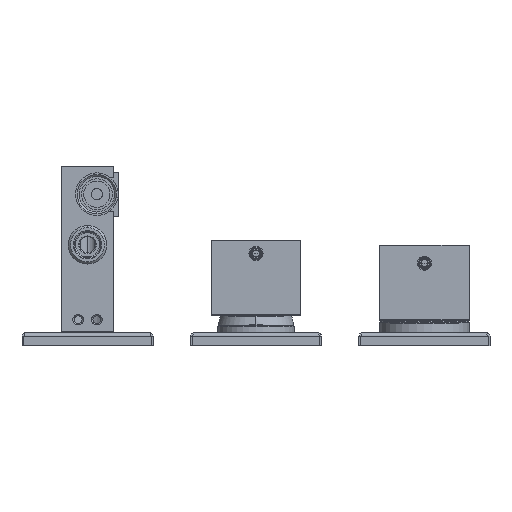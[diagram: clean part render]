
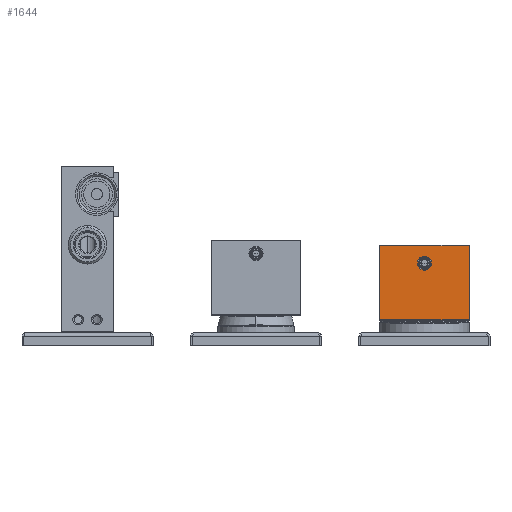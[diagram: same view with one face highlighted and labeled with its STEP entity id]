
A CAD part, front view. The second image highlights one B-rep face of the part: STEP entity #1644.
In plain terms, the highlighted planar face has unit normal (0, -1, 0).
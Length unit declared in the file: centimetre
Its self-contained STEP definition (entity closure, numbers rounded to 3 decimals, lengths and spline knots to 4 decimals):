
#1644=ADVANCED_FACE('',(#4323,#2811),#40237,.T.);
#2811=FACE_BOUND('',#6968,.T.);
#4323=FACE_OUTER_BOUND('',#6967,.T.);
#6967=EDGE_LOOP('',(#15448,#15449,#15450,#15451));
#6968=EDGE_LOOP('',(#15452,#15453));
#15448=ORIENTED_EDGE('',*,*,#24333,.F.);
#15449=ORIENTED_EDGE('',*,*,#24366,.F.);
#15450=ORIENTED_EDGE('',*,*,#24368,.T.);
#15451=ORIENTED_EDGE('',*,*,#24367,.F.);
#15452=ORIENTED_EDGE('',*,*,#25908,.T.);
#15453=ORIENTED_EDGE('',*,*,#25909,.T.);
#24333=EDGE_CURVE('',#36827,#36824,#32149,.T.);
#24366=EDGE_CURVE('',#36938,#36827,#32175,.T.);
#24367=EDGE_CURVE('',#36824,#36822,#32176,.T.);
#24368=EDGE_CURVE('',#36938,#36822,#32177,.T.);
#25908=EDGE_CURVE('',#36940,#36939,#27912,.T.);
#25909=EDGE_CURVE('',#36939,#36940,#27913,.T.);
#27912=TRIMMED_CURVE($,#29014,(#90414),(#90415),.T.,.CARTESIAN.);
#27913=TRIMMED_CURVE($,#29015,(#90417),(#90418),.T.,.CARTESIAN.);
#29014=CIRCLE('',#44040,0.375);
#29015=CIRCLE('',#44041,0.375);
#32149=B_SPLINE_CURVE_WITH_KNOTS('',1,(#85158,#85159),.UNSPECIFIED.,.F.,
 .F.,(2,2),(-47.6,0.),.UNSPECIFIED.);
#32175=B_SPLINE_CURVE_WITH_KNOTS('',1,(#85231,#85232),.UNSPECIFIED.,.F.,
 .F.,(2,2),(-39.6,0.),.UNSPECIFIED.);
#32176=B_SPLINE_CURVE_WITH_KNOTS('',1,(#85233,#85234),.UNSPECIFIED.,.F.,
 .F.,(2,2),(0.,39.6),.UNSPECIFIED.);
#32177=B_SPLINE_CURVE_WITH_KNOTS('',1,(#85235,#85236),.UNSPECIFIED.,.F.,
 .F.,(2,2),(-47.6,0.),.UNSPECIFIED.);
#36822=VERTEX_POINT('',#83547);
#36824=VERTEX_POINT('',#83549);
#36827=VERTEX_POINT('',#83552);
#36938=VERTEX_POINT('',#83663);
#36939=VERTEX_POINT('',#83664);
#36940=VERTEX_POINT('',#83665);
#40237=PLANE('',#43045);
#43045=AXIS2_PLACEMENT_3D('',#76133,#47021,$);
#44040=AXIS2_PLACEMENT_3D($,#90413,#48182,#48183);
#44041=AXIS2_PLACEMENT_3D($,#90416,#48184,#48185);
#47021=DIRECTION('',(0.,-1.,0.));
#48182=DIRECTION('',(0.,1.,0.));
#48183=DIRECTION('',(0.,0.,1.));
#48184=DIRECTION('',(0.,1.,0.));
#48185=DIRECTION('',(0.,0.,-1.));
#76133=CARTESIAN_POINT('',(5.3845,-2.4,9.9845));
#83547=CARTESIAN_POINT('',(10.63,-2.4,10.39));
#83549=CARTESIAN_POINT('',(10.63,-2.4,14.35));
#83552=CARTESIAN_POINT('',(5.87,-2.4,14.35));
#83663=CARTESIAN_POINT('',(5.87,-2.4,10.39));
#83664=CARTESIAN_POINT('',(8.25,-2.4,13.045));
#83665=CARTESIAN_POINT('',(8.25,-2.4,13.795));
#85158=CARTESIAN_POINT('',(5.87,-2.4,14.35));
#85159=CARTESIAN_POINT('',(10.63,-2.4,14.35));
#85231=CARTESIAN_POINT('',(5.87,-2.4,10.39));
#85232=CARTESIAN_POINT('',(5.87,-2.4,14.35));
#85233=CARTESIAN_POINT('',(10.63,-2.4,14.35));
#85234=CARTESIAN_POINT('',(10.63,-2.4,10.39));
#85235=CARTESIAN_POINT('',(5.87,-2.4,10.39));
#85236=CARTESIAN_POINT('',(10.63,-2.4,10.39));
#90413=CARTESIAN_POINT('',(8.25,-2.4,13.42));
#90414=CARTESIAN_POINT('',(8.25,-2.4,13.795));
#90415=CARTESIAN_POINT('',(8.25,-2.4,13.045));
#90416=CARTESIAN_POINT('',(8.25,-2.4,13.42));
#90417=CARTESIAN_POINT('',(8.25,-2.4,13.045));
#90418=CARTESIAN_POINT('',(8.25,-2.4,13.795));
